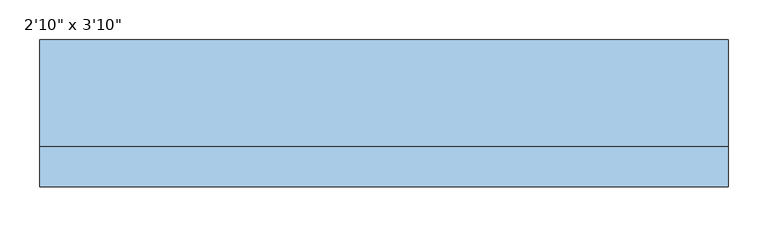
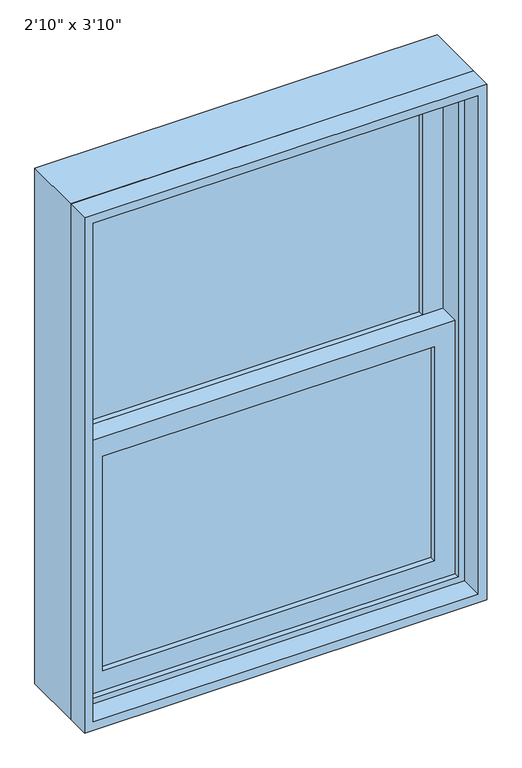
"""IFC4 building model written with IfcOpenShell, lengths in millimetres: window geometry."""

from ifc_helpers import new_model, si_unit, frame, origin, place, context, project, spatial, polyline, outline, extrude, source, transform, mapped, element, save


def window_a33a3c81(model_context):
    return source(origin(), model_context, "Body", "SweptSolid", [
        extrude(outline(polyline([(355.6, 12.7), (355.6, 6.35), (-355.6, 6.35), (-355.6, 12.7), (355.6, 12.7)])), frame((0.0, 0.0, 990.6), z_axis=(0.0, 0.0, 1.0), x_axis=(1.0, 0.0, 0.0)), (0.0, 0.0, 1.0), 485.775),
        extrude(outline(polyline([(-355.6, 0.0), (355.6, 0.0), (355.6, -6.35), (-355.6, -6.35), (-355.6, 0.0)])), frame((0.0, 0.0, 990.6), z_axis=(0.0, 0.0, 1.0), x_axis=(1.0, 0.0, 0.0)), (0.0, 0.0, 1.0), 485.775),
        extrude(outline(polyline([(355.6, 57.15), (355.6, 50.8), (-355.6, 50.8), (-355.6, 57.15), (355.6, 57.15)])), frame((0.0, 0.0, 1520.825), z_axis=(0.0, 0.0, 1.0), x_axis=(1.0, 0.0, 0.0)), (0.0, 0.0, 1.0), 485.775),
        extrude(outline(polyline([(-355.6, 44.45), (355.6, 44.45), (355.6, 38.1), (-355.6, 38.1), (-355.6, 44.45)])), frame((0.0, 0.0, 1520.825), z_axis=(0.0, 0.0, 1.0), x_axis=(1.0, 0.0, 0.0)), (0.0, 0.0, 1.0), 485.775),
        extrude(outline(polyline([(1520.825, -400.05), (946.15, -400.05), (946.15, 400.05), (1520.825, 400.05), (1520.825, -400.05)]), holes=[polyline([(1476.375, 355.6), (990.6, 355.6), (990.6, -355.6), (1476.375, -355.6), (1476.375, 355.6)])]), frame((0.0, -19.05, 0.0), z_axis=(0.0, 1.0, 0.0), x_axis=(0.0, 0.0, 1.0)), (0.0, 0.0, 1.0), 44.45),
        extrude(outline(polyline([(2051.05, -400.05), (1476.375, -400.05), (1476.375, 400.05), (2051.05, 400.05), (2051.05, -400.05)]), holes=[polyline([(2006.6, 355.6), (1520.825, 355.6), (1520.825, -355.6), (2006.6, -355.6), (2006.6, 355.6)])]), frame((0.0, 25.4, 0.0), z_axis=(0.0, 1.0, 0.0), x_axis=(0.0, 0.0, 1.0)), (0.0, 0.0, 1.0), 44.45),
        extrude(outline(polyline([(2082.8, -431.8), (914.4, -431.8), (914.4, 431.8), (2082.8, 431.8), (2082.8, -431.8)]), holes=[polyline([(2051.05, 400.05), (946.15, 400.05), (946.15, -400.05), (2051.05, -400.05), (2051.05, 400.05)])]), frame((0.0, -31.75, 0.0), z_axis=(0.0, 1.0, 0.0), x_axis=(0.0, 0.0, 1.0)), (0.0, 0.0, 1.0), 133.35),
        extrude(outline(polyline([(2082.8, 431.8), (2082.8, -431.8), (914.4, -431.8), (914.4, 431.8), (2082.8, 431.8)]), holes=[polyline([(2063.75, 412.75), (933.45, 412.75), (933.45, -412.75), (2063.75, -412.75), (2063.75, 412.75)])]), frame((0.0, -82.55, 0.0), z_axis=(0.0, 1.0, 0.0), x_axis=(0.0, 0.0, 1.0)), (0.0, 0.0, 1.0), 50.8),
    ])


if __name__ == "__main__":
    model = new_model("IFC4")
    model_context = context("Model", 3, world=origin())
    ifc_project = project(units=[si_unit("LENGTHUNIT", "METRE", prefix="MILLI")], contexts=[model_context])
    site = spatial("IfcSite", under=ifc_project)
    building = spatial("IfcBuilding", under=site)
    placement = place(None, origin())
    window_shape = window_a33a3c81(model_context)
    element("IfcWindow", 1, ObjectType="Planitar-Double-Hung-Single : 2'10\" x 3'10\"", at=placement, inside=building, context=model_context, shape_type="MappedRepresentation", body=[
        mapped(window_shape, transform((0.0, 0.0, 0.0), x_axis=(1.0, 0.0, 0.0), y_axis=(0.0, 1.0, 0.0), z_axis=(0.0, 0.0, 1.0))),
    ])
    save(model, "model.ifc")
